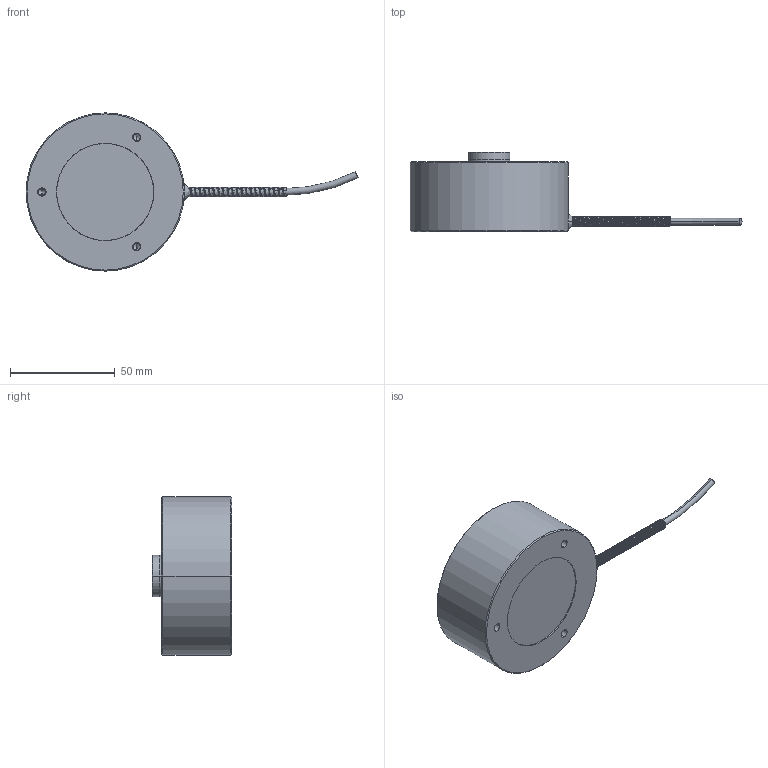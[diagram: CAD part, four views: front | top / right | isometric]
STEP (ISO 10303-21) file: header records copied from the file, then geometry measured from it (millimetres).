
FILE_DESCRIPTION (( 'STEP AP214' ), '1' );
FILE_NAME ('ALBM-5M-MC.STEP', '2021-04-27T07:23:49', ( '' ), ( '' ), 'SwSTEP 2.0', 'SolidWorks 2011', '' );
FILE_SCHEMA (( 'AUTOMOTIVE_DESIGN' ));
Length unit declared in the file: millimetre
Products named in the file (14): ALBM-5M-MC; MMACH-A008311; MMACH-A008302; Copy of Copy of 3.2mm^ALBM-5M-MC; SPR-A005545; STR-A006212; CAB-A005926; CAB-A005485; MWHML42AWG; CONS000933; CONS000934; CONS003645; CONS003738; CONS001239
Assembly tree (4 placements, depth 2):
  ALBM-5M-MC
    SPR-A005545
    Copy of Copy of 3.2mm^ALBM-5M-MC
    MMACH-A008311
    MMACH-A008302
  STR-A006212
  CAB-A005926
  CAB-A005485
  MWHML42AWG
Bounding box: 158.75 x 38.1 x 75.7 mm (x, y, z)
Volume: 149246.9 mm3; surface area: 24204.3 mm2
Topology: 4 solids, 4 shells, 66 faces, 138 edges, 84 vertices
Faces by surface type: cylinder 30, plane 14, cone 10, torus 6, bspline 4, sphere 2
Entity records: 17607 total; most frequent: CARTESIAN_POINT 15813, DIRECTION 338, ORIENTED_EDGE 264, AXIS2_PLACEMENT_3D 149, EDGE_CURVE 132, VERTEX_POINT 84, CIRCLE 80, EDGE_LOOP 76
